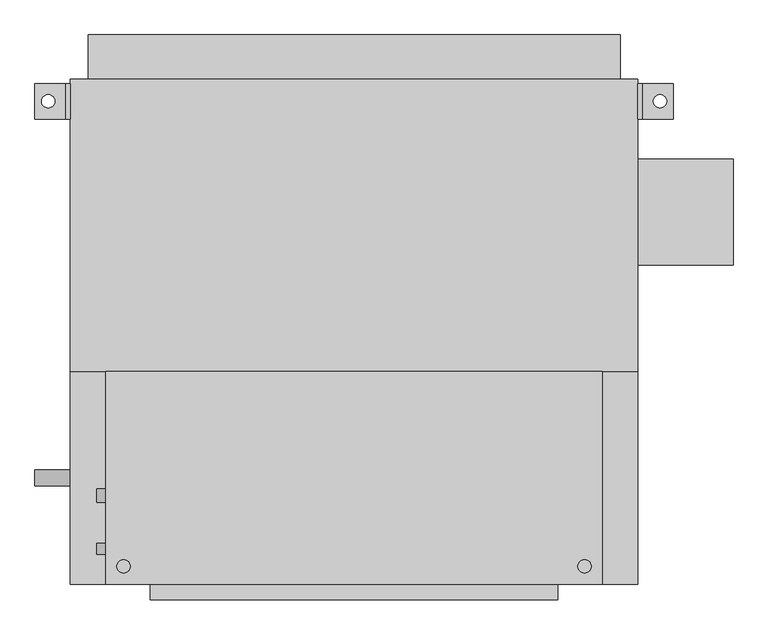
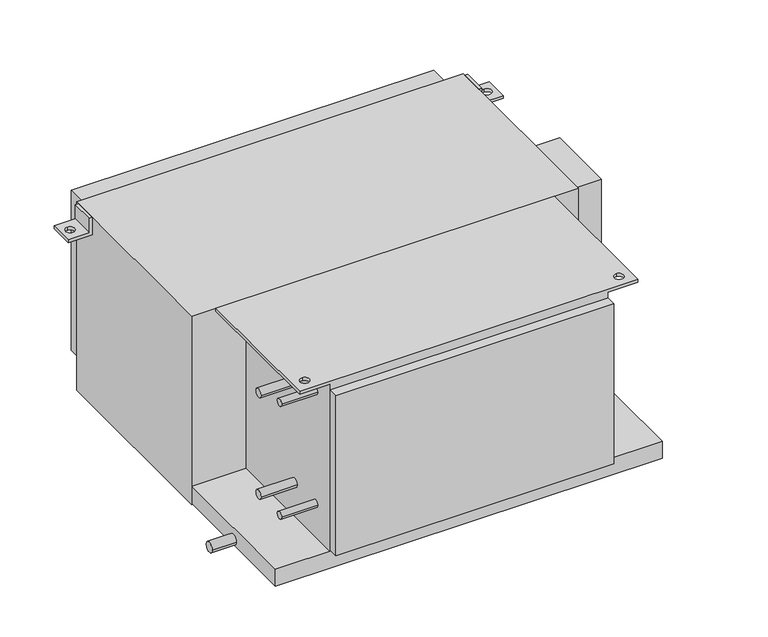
"""IFC4 building model written with IfcOpenShell, lengths in millimetres: proxy geometry, Concealed_High_Capacity_Horizontal_Fan_Coil_Unit_With_Plenum_-_42DCA_-_CARRIER_-_4-Pipe_LH_2022 : Size 10 - 277v/60Hz/1Ph - 6/2 Coil."""

from ifc_helpers import new_model, si_unit, point, frame, frame_2d, origin, place, context, project, spatial, polyline, circle_curve, trimmed, segment, composite_curve, outline, extrude, source, transform, mapped, element, save
from ifc_brep_helpers import plane_surface, revolved_surface, advanced_brep


def mechanical_equipment_4f3da22f(model_context):
    return source(origin(), model_context, "Body", "SolidModel", [
        advanced_brep(
        [(-203.2, -85.725, 0.0), (-203.2, -390.525, 0.0), (508.0, -390.525, 0.0), (508.0, -85.725, 0.0), (-177.8, -374.65, 0.0), (-177.8, -355.6, 0.0), (482.6, -374.65, 0.0), (482.6, -355.6, 0.0), (444.5, -85.725, -377.825), (444.5, -390.525, -377.825), (-139.7, -390.525, -377.825), (-139.7, -85.725, -377.825), (-139.7, -85.725, -6.35), (-203.2, -85.725, -6.35), (508.0, -85.725, -6.35), (444.5, -85.725, -6.35), (-139.7, -390.525, -6.35), (444.5, -390.525, -6.35), (508.0, -390.525, -6.35), (-203.2, -390.525, -6.35), (-177.8, -355.6, -6.35), (-177.8, -374.65, -6.35), (482.6, -355.6, -6.35), (482.6, -374.65, -6.35)],
        [
            (0, 1),
            (1, 2),
            (2, 3),
            (3, 0),
            (4, 5, circle_curve(frame((-177.8, -365.125, 0.0), z_axis=(0.0, 0.0, -1.0), x_axis=(0.0, 1.0, 0.0)), 9.525)),
            (5, 4, circle_curve(frame((-177.8, -365.125, 0.0), z_axis=(0.0, 0.0, -1.0), x_axis=(0.0, 1.0, 0.0)), 9.525)),
            (6, 7, circle_curve(frame((482.6, -365.125, 0.0), z_axis=(0.0, 0.0, -1.0), x_axis=(0.0, 1.0, 0.0)), 9.525)),
            (7, 6, circle_curve(frame((482.6, -365.125, 0.0), z_axis=(0.0, 0.0, -1.0), x_axis=(0.0, 1.0, 0.0)), 9.525)),
            (8, 9),
            (9, 10),
            (10, 11),
            (11, 8),
            (11, 12),
            (12, 13),
            (13, 0),
            (3, 14),
            (14, 15),
            (15, 8),
            (10, 16),
            (16, 12),
            (9, 17),
            (17, 18),
            (18, 2),
            (1, 19),
            (19, 16),
            (15, 17),
            (19, 13),
            (20, 21, circle_curve(frame((-177.8, -365.125, -6.35), z_axis=(0.0, 0.0, 1.0), x_axis=(0.0, 1.0, 0.0)), 9.525)),
            (21, 20, circle_curve(frame((-177.8, -365.125, -6.35), z_axis=(0.0, 0.0, 1.0), x_axis=(0.0, 1.0, 0.0)), 9.525)),
            (14, 18),
            (22, 23, circle_curve(frame((482.6, -365.125, -6.35), z_axis=(0.0, 0.0, 1.0), x_axis=(0.0, 1.0, 0.0)), 9.525)),
            (23, 22, circle_curve(frame((482.6, -365.125, -6.35), z_axis=(0.0, 0.0, 1.0), x_axis=(0.0, 1.0, 0.0)), 9.525)),
            (4, 21),
            (20, 5),
            (6, 23),
            (22, 7),
        ],
        [
            plane_surface(frame((-139.7, -85.725, 0.0), z_axis=(0.0, 0.0, 1.0), x_axis=(-1.0, 0.0, 0.0))),
            plane_surface(frame((-139.7, -85.725, -377.825), z_axis=(0.0, 0.0, -1.0), x_axis=(1.0, 0.0, 0.0))),
            plane_surface(frame((444.5, -85.725, 0.0), z_axis=(0.0, 1.0, 0.0), x_axis=(0.0, 0.0, -1.0))),
            plane_surface(frame((-139.7, -85.725, 0.0), z_axis=(-1.0, 0.0, 0.0), x_axis=(0.0, 0.0, -1.0))),
            plane_surface(frame((-139.7, -390.525, 0.0), z_axis=(0.0, -1.0, 0.0), x_axis=(0.0, 0.0, -1.0))),
            plane_surface(frame((444.5, -390.525, 0.0), z_axis=(1.0, 0.0, 0.0), x_axis=(0.0, 0.0, -1.0))),
            plane_surface(frame((-203.2, -85.725, -6.35), z_axis=(0.0, 0.0, -1.0), x_axis=(0.0, 1.0, 0.0))),
            plane_surface(frame((-203.2, -85.725, 0.0), z_axis=(-1.0, 0.0, 0.0), x_axis=(0.0, 0.0, -1.0))),
            plane_surface(frame((508.0, -390.525, 0.0), z_axis=(1.0, 0.0, 0.0), x_axis=(0.0, 0.0, -1.0))),
            revolved_surface(polyline([(-177.8, -355.6, -6.35), (-177.8, -355.6, 0.0)]), (-177.8, -365.125, 0.0), (0.0, 0.0, -1.0)),
            revolved_surface(polyline([(482.6, -355.6, -6.35), (482.6, -355.6, 0.0)]), (482.6, -365.125, 0.0), (0.0, 0.0, -1.0)),
        ],
        [
            (0, [[1, 2, 3, 4], [5, 6], [7, 8]]),
            (1, [[9, 10, 11, 12]]),
            (2, [[-12, 13, 14, 15, -4, 16, 17, 18]]),
            (3, [[-11, 19, 20, -13]]),
            (4, [[-10, 21, 22, 23, -2, 24, 25, -19]]),
            (5, [[-9, -18, 26, -21]]),
            (6, [[-14, -20, -25, 27], [28, 29]]),
            (6, [[30, -22, -26, -17], [31, 32]]),
            (7, [[-27, -24, -1, -15]]),
            (8, [[-30, -16, -3, -23]]),
            (9, [[33, -28, 34, -5]]),
            (9, [[-33, -6, -34, -29]]),
            (10, [[35, -31, 36, -7]]),
            (10, [[-35, -8, -36, -32]]),
        ],
    ),
        advanced_brep(
        [(-254.0, 327.025, -38.1), (-304.8, 327.025, -38.1), (-304.8, 327.025, -31.75), (-260.35, 327.025, -31.75), (-260.35, 327.025, 0.0), (-254.0, 327.025, 0.0), (-254.0, 276.225, -38.1), (-254.0, 276.225, 0.0), (-260.35, 276.225, 0.0), (-260.35, 276.225, -31.75), (-304.8, 276.225, -31.75), (-304.8, 276.225, -38.1), (-285.75, 292.1, -38.1), (-285.75, 311.15, -38.1), (-285.75, 311.15, -31.75), (-285.75, 292.1, -31.75)],
        [
            (0, 1),
            (1, 2),
            (2, 3),
            (3, 4),
            (4, 5),
            (5, 0),
            (6, 7),
            (7, 8),
            (8, 9),
            (9, 10),
            (10, 11),
            (11, 6),
            (0, 6),
            (11, 1),
            (12, 13, circle_curve(frame((-285.75, 301.625, -38.1), z_axis=(0.0, 0.0, 1.0), x_axis=(0.0, -1.0, 0.0)), 9.525)),
            (13, 12, circle_curve(frame((-285.75, 301.625, -38.1), z_axis=(0.0, 0.0, 1.0), x_axis=(0.0, -1.0, 0.0)), 9.525)),
            (10, 2),
            (9, 3),
            (14, 15, circle_curve(frame((-285.75, 301.625, -31.75), z_axis=(0.0, 0.0, -1.0), x_axis=(0.0, -1.0, 0.0)), 9.525)),
            (15, 14, circle_curve(frame((-285.75, 301.625, -31.75), z_axis=(0.0, 0.0, -1.0), x_axis=(0.0, -1.0, 0.0)), 9.525)),
            (8, 4),
            (7, 5),
            (14, 13),
            (12, 15),
        ],
        [
            plane_surface(frame((-254.0, 327.025, -38.1), z_axis=(0.0, 1.0, 0.0), x_axis=(-1.0, 0.0, 0.0))),
            plane_surface(frame((-254.0, 276.225, -38.1), z_axis=(0.0, -1.0, 0.0), x_axis=(1.0, 0.0, 0.0))),
            plane_surface(frame((-254.0, 327.025, -38.1), z_axis=(0.0, 0.0, -1.0), x_axis=(0.0, -1.0, 0.0))),
            plane_surface(frame((-304.8, 327.025, -38.1), z_axis=(-1.0, 0.0, 0.0), x_axis=(0.0, -1.0, 0.0))),
            plane_surface(frame((-304.8, 327.025, -31.75), z_axis=(0.0, 0.0, 1.0), x_axis=(0.0, -1.0, 0.0))),
            plane_surface(frame((-260.35, 327.025, -31.75), z_axis=(-1.0, 0.0, 0.0), x_axis=(0.0, -1.0, 0.0))),
            plane_surface(frame((-260.35, 327.025, 0.0), z_axis=(0.0, 0.0, 1.0), x_axis=(0.0, -1.0, 0.0))),
            plane_surface(frame((-254.0, 327.025, 0.0), z_axis=(1.0, 0.0, 0.0), x_axis=(0.0, -1.0, 0.0))),
            revolved_surface(polyline([(-285.75, 292.1, -38.1), (-285.75, 292.1, -31.75)]), (-285.75, 301.625, -31.75), (0.0, 0.0, -1.0)),
        ],
        [
            (0, [[1, 2, 3, 4, 5, 6]]),
            (1, [[7, 8, 9, 10, 11, 12]]),
            (2, [[-1, 13, -12, 14], [15, 16]]),
            (3, [[-2, -14, -11, 17]]),
            (4, [[-3, -17, -10, 18], [19, 20]]),
            (5, [[-4, -18, -9, 21]]),
            (6, [[-5, -21, -8, 22]]),
            (7, [[-6, -22, -7, -13]]),
            (8, [[23, -15, 24, -19]]),
            (8, [[-23, -20, -24, -16]]),
        ],
    ),
        advanced_brep(
        [(558.8, 327.025, -38.1), (558.8, 327.025, 0.0), (565.15, 327.025, 0.0), (565.15, 327.025, -31.75), (609.6, 327.025, -31.75), (609.6, 327.025, -38.1), (558.8, 276.225, -38.1), (609.6, 276.225, -38.1), (609.6, 276.225, -31.75), (565.15, 276.225, -31.75), (565.15, 276.225, 0.0), (558.8, 276.225, 0.0), (590.55, 311.15, -31.75), (590.55, 292.1, -31.75), (590.55, 292.1, -38.1), (590.55, 311.15, -38.1)],
        [
            (0, 1),
            (1, 2),
            (2, 3),
            (3, 4),
            (4, 5),
            (5, 0),
            (6, 7),
            (7, 8),
            (8, 9),
            (9, 10),
            (10, 11),
            (11, 6),
            (0, 6),
            (11, 1),
            (10, 2),
            (9, 3),
            (8, 4),
            (12, 13, circle_curve(frame((590.55, 301.625, -31.75), z_axis=(0.0, 0.0, -1.0), x_axis=(0.0, -1.0, 0.0)), 9.525)),
            (13, 12, circle_curve(frame((590.55, 301.625, -31.75), z_axis=(0.0, 0.0, -1.0), x_axis=(0.0, -1.0, 0.0)), 9.525)),
            (7, 5),
            (14, 15, circle_curve(frame((590.55, 301.625, -38.1), z_axis=(0.0, 0.0, 1.0), x_axis=(0.0, -1.0, 0.0)), 9.525)),
            (15, 14, circle_curve(frame((590.55, 301.625, -38.1), z_axis=(0.0, 0.0, 1.0), x_axis=(0.0, -1.0, 0.0)), 9.525)),
            (12, 15),
            (14, 13),
        ],
        [
            plane_surface(frame((-254.0, 327.025, -38.1), z_axis=(0.0, 1.0, 0.0), x_axis=(-1.0, 0.0, 0.0))),
            plane_surface(frame((-254.0, 276.225, -38.1), z_axis=(0.0, -1.0, 0.0), x_axis=(1.0, 0.0, 0.0))),
            plane_surface(frame((558.8, 327.025, -38.1), z_axis=(-1.0, 0.0, 0.0), x_axis=(0.0, -1.0, 0.0))),
            plane_surface(frame((558.8, 327.025, 0.0), z_axis=(0.0, 0.0, 1.0), x_axis=(0.0, -1.0, 0.0))),
            plane_surface(frame((565.15, 327.025, 0.0), z_axis=(1.0, 0.0, 0.0), x_axis=(0.0, -1.0, 0.0))),
            plane_surface(frame((565.15, 327.025, -31.75), z_axis=(0.0, 0.0, 1.0), x_axis=(0.0, -1.0, 0.0))),
            plane_surface(frame((609.6, 327.025, -31.75), z_axis=(1.0, 0.0, 0.0), x_axis=(0.0, -1.0, 0.0))),
            plane_surface(frame((609.6, 327.025, -38.1), z_axis=(0.0, 0.0, -1.0), x_axis=(0.0, -1.0, 0.0))),
            revolved_surface(polyline([(590.55, 292.1, -38.1), (590.55, 292.1, -31.75)]), (590.55, 301.625, -31.75), (0.0, 0.0, -1.0)),
        ],
        [
            (0, [[1, 2, 3, 4, 5, 6]]),
            (1, [[7, 8, 9, 10, 11, 12]]),
            (2, [[-1, 13, -12, 14]]),
            (3, [[-2, -14, -11, 15]]),
            (4, [[-3, -15, -10, 16]]),
            (5, [[-4, -16, -9, 17], [18, 19]]),
            (6, [[-5, -17, -8, 20]]),
            (7, [[-6, -20, -7, -13], [21, 22]]),
            (8, [[23, -21, 24, -18]]),
            (8, [[-23, -19, -24, -22]]),
        ],
    ),
        extrude(outline(polyline([(-228.6, 396.875), (533.4, 396.875), (533.4, 333.375), (-228.6, 333.375), (-228.6, 396.875)])), frame((0.0, 0.0, -377.825), z_axis=(0.0, 0.0, 1.0), x_axis=(1.0, 0.0, 0.0)), (0.0, 0.0, 1.0), 355.6),
        extrude(outline(composite_curve([segment(trimmed(circle_curve(frame_2d((-263.525, -76.2)), 9.525), [point((-273.05, -76.2))], [point((-254.0, -76.2))], False, "CARTESIAN"), True, "CONTINUOUS"), segment(trimmed(circle_curve(frame_2d((-263.525, -76.2)), 9.525), [point((-254.0, -76.2))], [point((-273.05, -76.2))], False, "CARTESIAN"), True, "CONTINUOUS")], self_intersect=False)), frame((-215.9, 0.0, 0.0), z_axis=(1.0, 0.0, 0.0), x_axis=(0.0, 1.0, 0.0)), (0.0, 0.0, 1.0), 76.2),
        extrude(outline(composite_curve([segment(trimmed(circle_curve(frame_2d((-263.525, -301.625)), 9.525), [point((-273.05, -301.625))], [point((-254.0, -301.625))], False, "CARTESIAN"), True, "CONTINUOUS"), segment(trimmed(circle_curve(frame_2d((-263.525, -301.625)), 9.525), [point((-254.0, -301.625))], [point((-273.05, -301.625))], False, "CARTESIAN"), True, "CONTINUOUS")], self_intersect=False)), frame((-215.9, 0.0, 0.0), z_axis=(1.0, 0.0, 0.0), x_axis=(0.0, 1.0, 0.0)), (0.0, 0.0, 1.0), 76.2),
        extrude(outline(composite_curve([segment(trimmed(circle_curve(frame_2d((-339.725, -50.8)), 7.9375), [point((-347.6625, -50.8))], [point((-331.7875, -50.8))], False, "CARTESIAN"), True, "CONTINUOUS"), segment(trimmed(circle_curve(frame_2d((-339.725, -50.8)), 7.9375), [point((-331.7875, -50.8))], [point((-347.6625, -50.8))], False, "CARTESIAN"), True, "CONTINUOUS")], self_intersect=False)), frame((-215.9, 0.0, 0.0), z_axis=(1.0, 0.0, 0.0), x_axis=(0.0, 1.0, 0.0)), (0.0, 0.0, 1.0), 76.2),
        extrude(outline(composite_curve([segment(trimmed(circle_curve(frame_2d((-339.725, -301.625)), 7.9375), [point((-347.6625, -301.625))], [point((-331.7875, -301.625))], False, "CARTESIAN"), True, "CONTINUOUS"), segment(trimmed(circle_curve(frame_2d((-339.725, -301.625)), 7.9375), [point((-331.7875, -301.625))], [point((-347.6625, -301.625))], False, "CARTESIAN"), True, "CONTINUOUS")], self_intersect=False)), frame((-215.9, 0.0, 0.0), z_axis=(1.0, 0.0, 0.0), x_axis=(0.0, 1.0, 0.0)), (0.0, 0.0, 1.0), 76.2),
        extrude(outline(composite_curve([segment(trimmed(circle_curve(frame_2d((-238.125, -403.225)), 11.1125), [point((-249.2375, -403.225))], [point((-227.0125, -403.225))], False, "CARTESIAN"), True, "CONTINUOUS"), segment(trimmed(circle_curve(frame_2d((-238.125, -403.225)), 11.1125), [point((-227.0125, -403.225))], [point((-249.2375, -403.225))], False, "CARTESIAN"), True, "CONTINUOUS")], self_intersect=False)), frame((-304.8, 0.0, 0.0), z_axis=(1.0, 0.0, 0.0), x_axis=(0.0, 1.0, 0.0)), (0.0, 0.0, 1.0), 50.8),
        extrude(outline(polyline([(695.325, 219.075), (695.325, 66.675), (558.8, 66.675), (558.8, 219.075), (695.325, 219.075)])), frame((0.0, 0.0, -273.05), z_axis=(0.0, 0.0, 1.0), x_axis=(1.0, 0.0, 0.0)), (0.0, 0.0, 1.0), 152.4),
        extrude(outline(polyline([(444.5, -412.75), (-139.7, -412.75), (-139.7, -390.525), (444.5, -390.525), (444.5, -412.75)])), frame((0.0, 0.0, -374.65), z_axis=(0.0, 0.0, 1.0), x_axis=(1.0, 0.0, 0.0)), (0.0, 0.0, 1.0), 355.6),
        extrude(outline(polyline([(558.8, -85.725), (-254.0, -85.725), (-254.0, 333.375), (558.8, 333.375), (558.8, -85.725)])), frame((0.0, 0.0, -419.1), z_axis=(0.0, 0.0, 1.0), x_axis=(1.0, 0.0, 0.0)), (0.0, 0.0, 1.0), 419.1),
        extrude(outline(polyline([(558.8, -85.725), (558.8, -390.525), (-254.0, -390.525), (-254.0, -85.725), (558.8, -85.725)])), frame((0.0, 0.0, -415.925), z_axis=(0.0, 0.0, 1.0), x_axis=(1.0, 0.0, 0.0)), (0.0, 0.0, 1.0), 38.1),
    ])


if __name__ == "__main__":
    model = new_model("IFC4")
    model_context = context("Model", 3, world=origin())
    ifc_project = project(units=[si_unit("LENGTHUNIT", "METRE", prefix="MILLI")], contexts=[model_context])
    site = spatial("IfcSite", under=ifc_project)
    building = spatial("IfcBuilding", under=site)
    placement = place(None, origin())
    mechanical_equipment_shape = mechanical_equipment_4f3da22f(model_context)
    element("IfcBuildingElementProxy", 1, Name="Concealed_High_Capacity_Horizontal_Fan_Coil_Unit_With_Plenum_-_42DCA_-_CARRIER_-_4-Pipe_LH_2022 : Size 10 - 277v/60Hz/1Ph - 6/2 Coil", ObjectType="Concealed_High_Capacity_Horizontal_Fan_Coil_Unit_With_Plenum_-_42DCA_-_CARRIER_-_4-Pipe_LH_2022 : Size 10 - 277v/60Hz/1Ph - 6/2 Coil", at=placement, inside=building, context=model_context, shape_type="MappedRepresentation", body=[
        mapped(mechanical_equipment_shape, transform((0.0, 0.0, 0.0), x_axis=(1.0, 0.0, 0.0), y_axis=(0.0, 1.0, 0.0), z_axis=(0.0, 0.0, 1.0))),
    ])
    save(model, "model.ifc")
